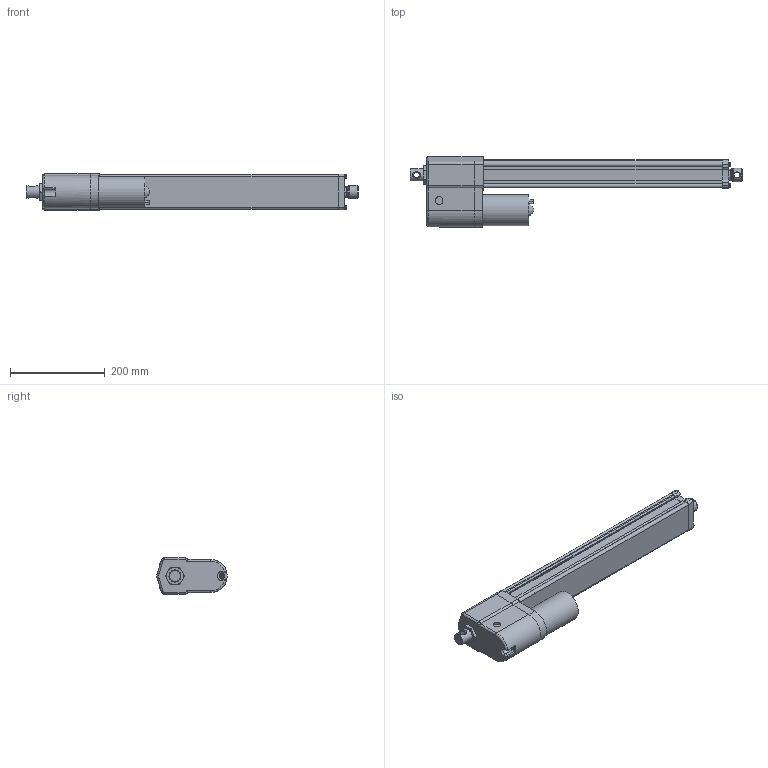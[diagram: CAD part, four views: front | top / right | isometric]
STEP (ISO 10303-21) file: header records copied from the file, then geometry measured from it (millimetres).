
FILE_DESCRIPTION( ( 'STEP AP203' ), '1' );
FILE_NAME( 'p:/temp/worker_522/temp/exporttempdir_6412_689_uEede/format_0/DA24-21B65M35M0NPO-AMM.stp', '2020-04-12T18:22:50', ( 'License CC BY-ND 4.0' ), ( 'CADENAS' ), ' ', 'PARTsolutions', ' ' );
FILE_SCHEMA( ( 'CONFIG_CONTROL_DESIGN' ) );
Length unit declared in the file: millimetre
Products named in the file (8): DA24-21B65M35M0NPO-AMM; _ELECTRAK-LA14-DA24-21B65MM0NPO-35M-EU-REAR; _Electrak-10-EU-RA-D602700; _D602768eu; _ELECTRAK-LA14-DA24--MOTOR; _DA24-21B65M35M0NPOAMMtube; _ELECTRAK-LA14-DA24--35-PLATE; _ELECTRAK-LA14-DA24--3521B65MNPOM-ROD
Assembly tree (7 placements, depth 2):
  DA24-21B65M35M0NPO-AMM
    _ELECTRAK-LA14-DA24-21B65MM0NPO-35M-EU-REAR
    _Electrak-10-EU-RA-D602700
    _D602768eu
    _ELECTRAK-LA14-DA24--MOTOR
    _DA24-21B65M35M0NPOAMMtube
    _ELECTRAK-LA14-DA24--35-PLATE
    _ELECTRAK-LA14-DA24--3521B65MNPOM-ROD
Bounding box: 698.95 x 148 x 76.2 mm (x, y, z)
Volume: 2390398 mm3; surface area: 515889.7 mm2
Topology: 7 solids, 8 shells, 378 faces, 942 edges, 611 vertices
Faces by surface type: plane 184, cylinder 131, cone 45, torus 14, bspline 4
Full cylindrical faces by diameter (mm): 4 x2, 4.126 x1, 4.8 x5, 5 x5, 5.6 x4, 7.878 x4, 9.398 x1, 12.2 x2, 16 x1, 16.5 x1, 21.8 x1, 25.2 x1, 25.4 x1, 26.24 x1, 28.5 x1, 28.6 x2, 47.625 x1, 65.3 x1
Entity records: 11834 total; most frequent: CARTESIAN_POINT 2729, DIRECTION 1869, ORIENTED_EDGE 1744, EDGE_CURVE 872, AXIS2_PLACEMENT_3D 702, VERTEX_POINT 602, EDGE_LOOP 485, LINE 465
